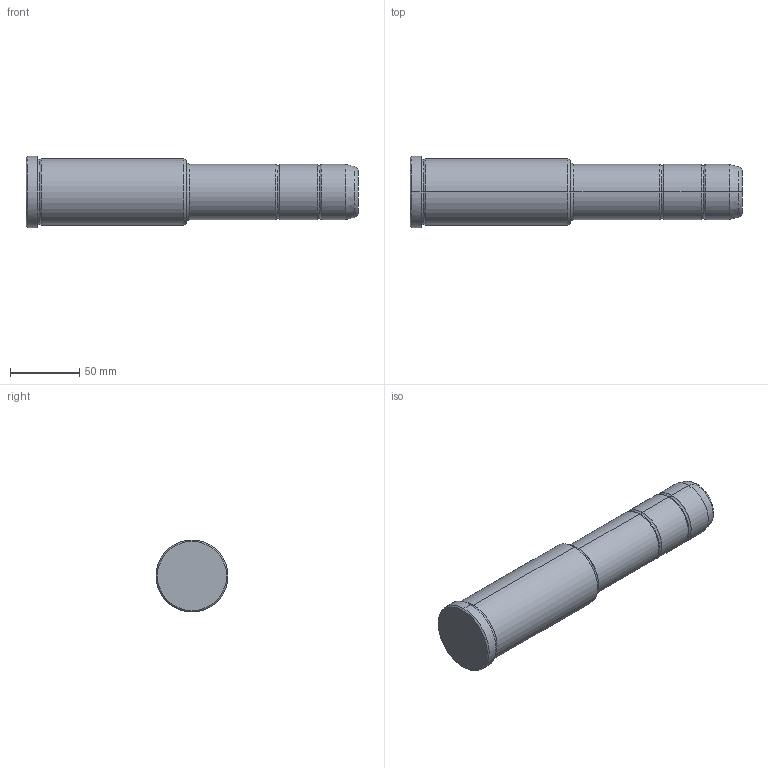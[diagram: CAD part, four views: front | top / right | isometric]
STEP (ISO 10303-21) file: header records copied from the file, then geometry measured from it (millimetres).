
FILE_DESCRIPTION(('CATIA V5 STEP Exchange'),'2;1');
FILE_NAME('C:\Users\Utente\Desktop\IO LAVORO\3D X SITO CF\X SITO\PLASTICA\351\351-40X116X240.stp','2021-10-07T13:18:15+00:00',('none'),('none'),'CATIA Version 5 Release 20 GA (IN-10)','CATIA V5 STEP AP203','none');
FILE_SCHEMA(('CONFIG_CONTROL_DESIGN'));
Length unit declared in the file: millimetre
Products named in the file (1): 351-40X116X240
Bounding box: 240 x 52 x 52 mm (x, y, z)
Volume: 366061.1 mm3; surface area: 36870.6 mm2
Topology: 1 solids, 1 shells, 36 faces, 102 edges, 70 vertices
Faces by surface type: torus 16, cylinder 10, cone 6, plane 4
Entity records: 1292 total; most frequent: CARTESIAN_POINT 321, ORIENTED_EDGE 204, DIRECTION 166, AXIS2_PLACEMENT_3D 115, EDGE_CURVE 102, CIRCLE 78, VERTEX_POINT 70, EDGE_LOOP 38
